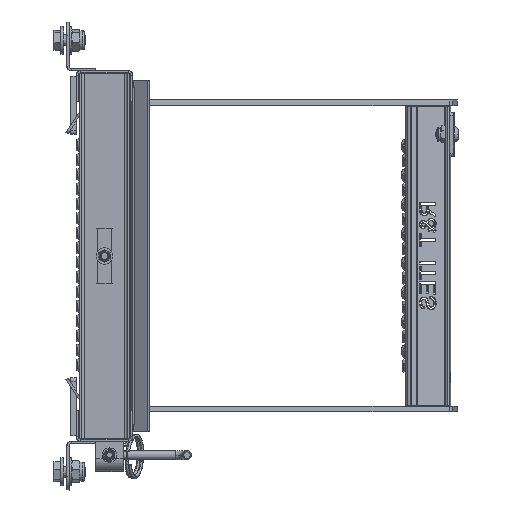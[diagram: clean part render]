
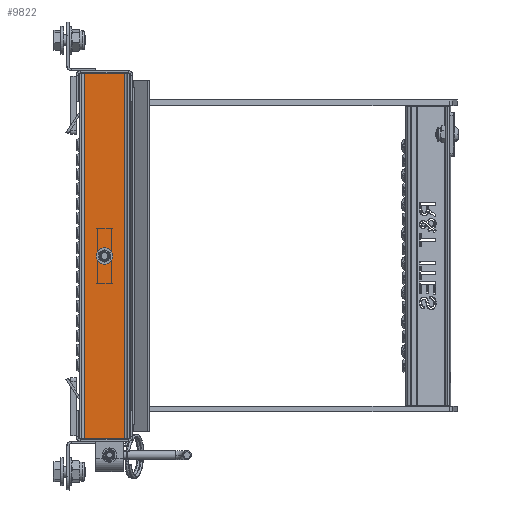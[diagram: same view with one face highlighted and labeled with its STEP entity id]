
A CAD part, left-side view. The second image highlights one B-rep face of the part: STEP entity #9822.
In plain terms, the highlighted planar face has unit normal (-1, 0, 0) as drawn and (0, 0, 1) by its records, which use the part's own axes.
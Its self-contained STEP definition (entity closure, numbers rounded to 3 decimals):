
#111 = VERTEX_POINT ( 'NONE', #35271 ) ;
#561 = EDGE_LOOP ( 'NONE', ( #16107, #14817, #27946, #29653 ) ) ;
#1021 = VECTOR ( 'NONE', #1619, 1000. ) ;
#1085 = VECTOR ( 'NONE', #1890, 1000. ) ;
#1619 = DIRECTION ( 'NONE',  ( 1., 0., 0. ) ) ;
#1890 = DIRECTION ( 'NONE',  ( -1., 0., 0. ) ) ;
#1985 = VECTOR ( 'NONE', #21158, 1000. ) ;
#2503 = VECTOR ( 'NONE', #38195, 1000. ) ;
#3746 = ORIENTED_EDGE ( 'NONE', *, *, #24729, .F. ) ;
#6285 = LINE ( 'NONE', #24006, #1085 ) ;
#6297 = LINE ( 'NONE', #49522, #1021 ) ;
#6582 = FACE_OUTER_BOUND ( 'NONE', #42435, .T. ) ;
#7364 = ORIENTED_EDGE ( 'NONE', *, *, #33742, .T. ) ;
#7768 = CARTESIAN_POINT ( 'NONE',  ( -3.25, 3.25, 0. ) ) ;
#9822 = ADVANCED_FACE ( 'NONE', ( #38448, #6582 ), #33279, .T. ) ;
#10939 = DIRECTION ( 'NONE',  ( 1., 0., 0. ) ) ;
#12920 = VERTEX_POINT ( 'NONE', #24358 ) ;
#13583 = VERTEX_POINT ( 'NONE', #36166 ) ;
#14817 = ORIENTED_EDGE ( 'NONE', *, *, #19087, .T. ) ;
#15388 = EDGE_CURVE ( 'NONE', #56208, #111, #43893, .T. ) ;
#15706 = EDGE_CURVE ( 'NONE', #17366, #28040, #55869, .T. ) ;
#16107 = ORIENTED_EDGE ( 'NONE', *, *, #32215, .T. ) ;
#17366 = VERTEX_POINT ( 'NONE', #36799 ) ;
#19087 = EDGE_CURVE ( 'NONE', #42647, #56208, #39150, .T. ) ;
#20829 = LINE ( 'NONE', #7768, #55040 ) ;
#21158 = DIRECTION ( 'NONE',  ( 0., -1., 0. ) ) ;
#23004 = CARTESIAN_POINT ( 'NONE',  ( -3.25, -3.25, 0. ) ) ;
#23814 = CARTESIAN_POINT ( 'NONE',  ( -165., -18.5, 0. ) ) ;
#24006 = CARTESIAN_POINT ( 'NONE',  ( 165., -18.5, 0. ) ) ;
#24358 = CARTESIAN_POINT ( 'NONE',  ( 165., 18.5, 0. ) ) ;
#24607 = CARTESIAN_POINT ( 'NONE',  ( 165., -22.5, 0. ) ) ;
#24729 = EDGE_CURVE ( 'NONE', #29784, #28040, #6285, .T. ) ;
#26128 = AXIS2_PLACEMENT_3D ( 'NONE', #51244, #50670, #10939 ) ;
#27946 = ORIENTED_EDGE ( 'NONE', *, *, #15388, .T. ) ;
#28040 = VERTEX_POINT ( 'NONE', #23814 ) ;
#28716 = EDGE_CURVE ( 'NONE', #17366, #12920, #6297, .T. ) ;
#29225 = LINE ( 'NONE', #24607, #2503 ) ;
#29653 = ORIENTED_EDGE ( 'NONE', *, *, #55585, .T. ) ;
#29784 = VERTEX_POINT ( 'NONE', #40629 ) ;
#30924 = ORIENTED_EDGE ( 'NONE', *, *, #15706, .T. ) ;
#32215 = EDGE_CURVE ( 'NONE', #13583, #42647, #42929, .T. ) ;
#33251 = DIRECTION ( 'NONE',  ( 0., -1., 0. ) ) ;
#33279 = PLANE ( 'NONE',  #26128 ) ;
#33742 = EDGE_CURVE ( 'NONE', #29784, #12920, #29225, .T. ) ;
#34391 = CARTESIAN_POINT ( 'NONE',  ( -165., -22.5, 0. ) ) ;
#34538 = CARTESIAN_POINT ( 'NONE',  ( -3.25, -3.25, 0. ) ) ;
#35271 = CARTESIAN_POINT ( 'NONE',  ( -3.25, 3.25, 0. ) ) ;
#36166 = CARTESIAN_POINT ( 'NONE',  ( 3.25, 3.25, 0. ) ) ;
#36799 = CARTESIAN_POINT ( 'NONE',  ( -165., 18.5, 0. ) ) ;
#38195 = DIRECTION ( 'NONE',  ( 0., 1., 0. ) ) ;
#38331 = VECTOR ( 'NONE', #52804, 1000. ) ;
#38448 = FACE_BOUND ( 'NONE', #561, .T. ) ;
#38473 = DIRECTION ( 'NONE',  ( 1., 0., 0. ) ) ;
#39150 = LINE ( 'NONE', #34538, #38331 ) ;
#40629 = CARTESIAN_POINT ( 'NONE',  ( 165., -18.5, 0. ) ) ;
#41707 = ORIENTED_EDGE ( 'NONE', *, *, #28716, .F. ) ;
#42435 = EDGE_LOOP ( 'NONE', ( #30924, #3746, #7364, #41707 ) ) ;
#42647 = VERTEX_POINT ( 'NONE', #54522 ) ;
#42929 = LINE ( 'NONE', #55966, #1985 ) ;
#43893 = LINE ( 'NONE', #49050, #52899 ) ;
#44446 = DIRECTION ( 'NONE',  ( 0., 1., 0. ) ) ;
#49050 = CARTESIAN_POINT ( 'NONE',  ( -3.25, -3.25, 0. ) ) ;
#49522 = CARTESIAN_POINT ( 'NONE',  ( -165., 18.5, 0. ) ) ;
#50670 = DIRECTION ( 'NONE',  ( 0., 0., 1. ) ) ;
#51244 = CARTESIAN_POINT ( 'NONE',  ( 0., 0., 0. ) ) ;
#52804 = DIRECTION ( 'NONE',  ( -1., 0., 0. ) ) ;
#52899 = VECTOR ( 'NONE', #44446, 1000. ) ;
#54522 = CARTESIAN_POINT ( 'NONE',  ( 3.25, -3.25, 0. ) ) ;
#55040 = VECTOR ( 'NONE', #38473, 1000. ) ;
#55585 = EDGE_CURVE ( 'NONE', #111, #13583, #20829, .T. ) ;
#55743 = VECTOR ( 'NONE', #33251, 1000. ) ;
#55869 = LINE ( 'NONE', #34391, #55743 ) ;
#55966 = CARTESIAN_POINT ( 'NONE',  ( 3.25, -3.25, 0. ) ) ;
#56208 = VERTEX_POINT ( 'NONE', #23004 ) ;
